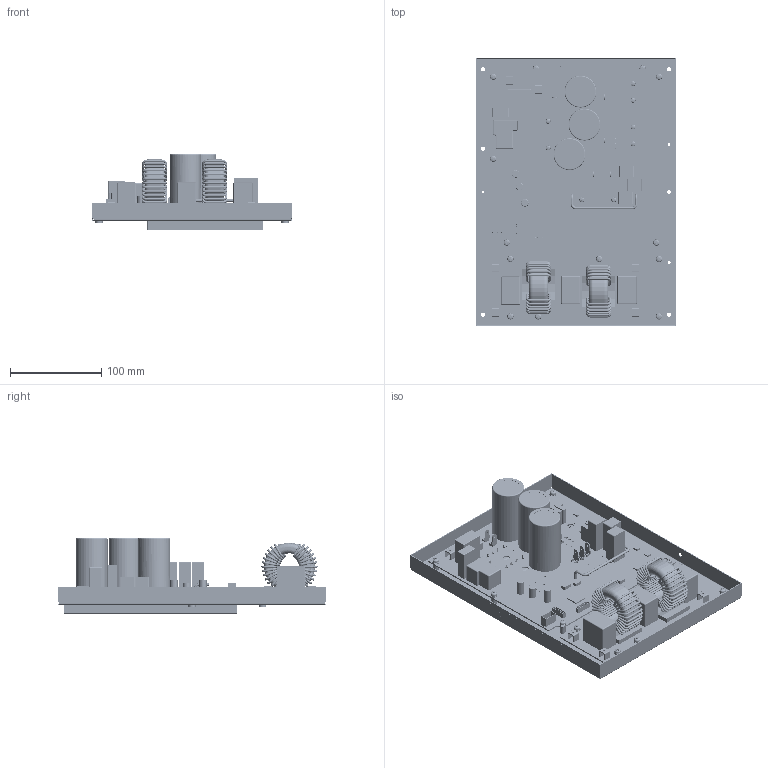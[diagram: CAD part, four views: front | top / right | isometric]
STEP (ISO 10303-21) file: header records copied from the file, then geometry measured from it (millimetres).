
FILE_DESCRIPTION((''),'2;1');
FILE_NAME('ASSEMBLY_CG_30CC_ASM','2022-02-15T14:13:22',('hschoi'),(''),'CREO PARAMETRIC BY PTC INC, 2019471','CREO PARAMETRIC BY PTC INC, 2019471','');
FILE_SCHEMA(('CONFIG_CONTROL_DESIGN'));
Products named in the file (16): 1_METAL-PLATE_30CC; M_STAND-OFF_M4X10; 1_METAL-PLATE_30CC_ASM; 1_COLD-PLATE_30CC; M_SCREW_M4X08_PAN-SEMS; E_PCB-MAIN_30CC; E_CON_5267-06A; E_CON_2EDGV-5O08-03P; E_BD_D25XB60_ANGLE; E_IGBT_M1; E_Q_STGW30H65FB_TO247_ANGLE; SCREW_M3X8_PAN; E_PCB-EMC_30CC; ADT-F162-2021_STICKER-BACK_SPEC; ADT-F162-2052_STICKER-SIDE_WARN; ASSEMBLY_CG_30CC_ASM
Assembly tree (51 placements, depth 3):
  ASSEMBLY_CG_30CC_ASM
    1_METAL-PLATE_30CC_ASM
      1_METAL-PLATE_30CC
      M_STAND-OFF_M4X10  x11
    1_COLD-PLATE_30CC
    M_SCREW_M4X08_PAN-SEMS  x15
    E_PCB-MAIN_30CC
    E_CON_5267-06A  x2
    E_CON_2EDGV-5O08-03P
    E_BD_D25XB60_ANGLE  x2
    E_IGBT_M1
    E_Q_STGW30H65FB_TO247_ANGLE  x4
    SCREW_M3X8_PAN  x8
    E_PCB-EMC_30CC
    ADT-F162-2021_STICKER-BACK_SPEC
    ADT-F162-2052_STICKER-SIDE_WARN
Bounding box: 220.08 x 295 x 83.1 mm (x, y, z)
Volume: 803128.4 mm3; surface area: 444051.2 mm2
Topology: 56 solids, 94 shells, 6392 faces, 15862 edges, 9631 vertices
Faces by surface type: plane 2561, cylinder 2353, torus 1048, cone 362, sphere 53, bspline 9, extrusion 6
Entity records: 145344 total; most frequent: CARTESIAN_POINT 29190, DIRECTION 25805, ORIENTED_EDGE 23304, EDGE_CURVE 11708, AXIS2_PLACEMENT_3D 9645, VERTEX_POINT 7009, VECTOR 6515, LINE 6509
